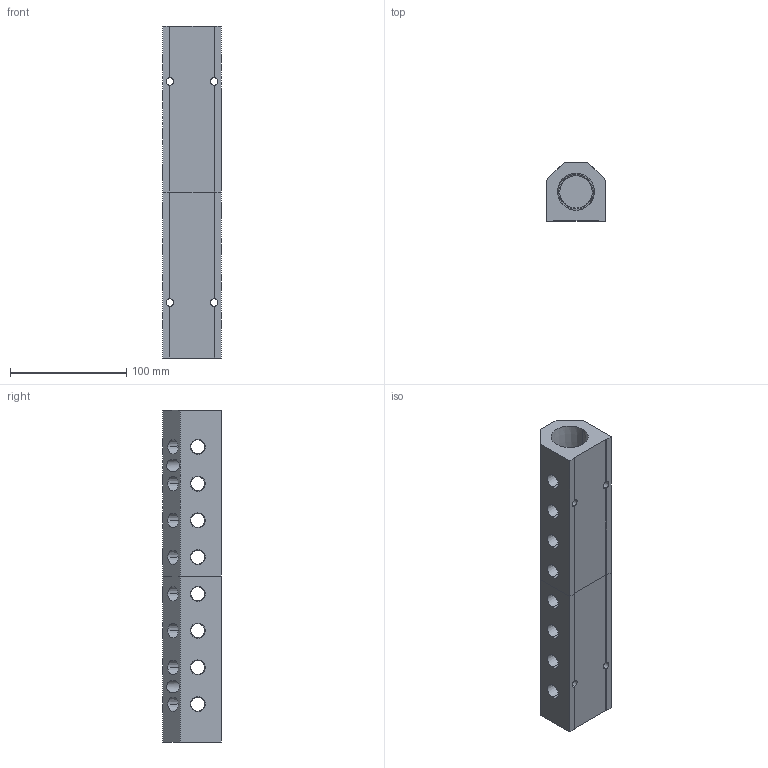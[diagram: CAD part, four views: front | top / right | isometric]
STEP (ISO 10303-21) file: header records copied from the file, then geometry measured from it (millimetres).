
FILE_DESCRIPTION (( 'STEP AP214' ), '1' );
FILE_NAME ('ALM8ABCDE-N4N16-286RB.STEP', '2023-11-02T06:14:56', ( '' ), ( '' ), 'SwSTEP 2.0', 'SolidWorks 2020', '' );
FILE_SCHEMA (( 'AUTOMOTIVE_DESIGN' ));
Length unit declared in the file: millimetre
Products named in the file (1): ALM8ABCDE-N4N16-286RB
Bounding box: 50.8 x 50.8 x 286 mm (x, y, z)
Volume: 416287.1 mm3; surface area: 100478.5 mm2
Topology: 2 solids, 2 shells, 463 faces, 1271 edges, 842 vertices
Faces by surface type: plane 255, bspline 96, cone 88, cylinder 24
Entity records: 28026 total; most frequent: CARTESIAN_POINT 12465, ORIENTED_EDGE 2542, DIRECTION 1815, EDGE_CURVE 1271, VERTEX_POINT 842, LINE 823, VECTOR 823, EDGE_LOOP 581
